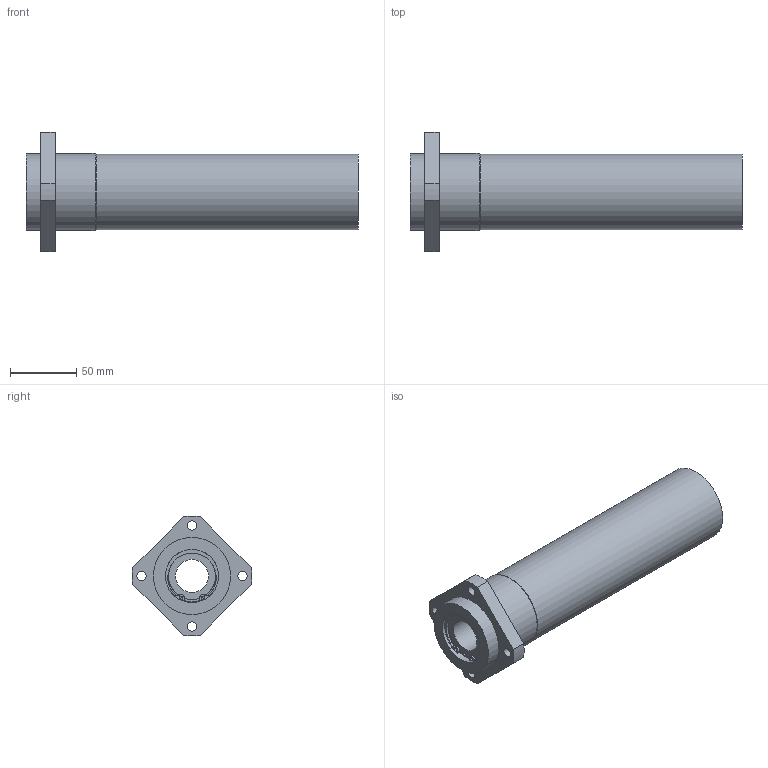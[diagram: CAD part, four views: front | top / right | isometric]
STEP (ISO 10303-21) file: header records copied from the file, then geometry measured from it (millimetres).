
FILE_DESCRIPTION((''),'2;1');
FILE_NAME('C:\Documents and Settings\土屋\My Documents\土屋移動用フォルダ\製品 (図面)\カタログ用3D\変換ファイル\OZAK_3D-CAD(STEP形式)\Part1.-Linear Bearings_ﾘﾆｱﾍﾞｱﾘﾝｸﾞ\09_Maintenance Free_ﾒｲﾝﾃﾅﾝｽﾌﾘｰ\L2017-09-22T14:03:31','2017-09-22T14:03:31',('y'),(''),'Autodesk Inventor 11','Autodesk Inventor 11','');
FILE_SCHEMA(('AUTOMOTIVE_DESIGN { 1 0 10303 214 1 1 1 1 }'));
Length unit declared in the file: millimetre
Products named in the file (1): LFWLB25BMF
Bounding box: 250 x 89.9 x 89.9 mm (x, y, z)
Volume: 537672 mm3; surface area: 82231.7 mm2
Topology: 1 solids, 7 shells, 97 faces, 245 edges, 152 vertices
Faces by surface type: bspline 34, cylinder 32, plane 28, torus 2, cone 1
Full cylindrical faces by diameter (mm): 2.5 x2, 7 x4, 25 x2, 35.3 x2, 38 x2, 40 x8, 57 x1, 58 x2
Entity records: 2957 total; most frequent: CARTESIAN_POINT 778, DIRECTION 468, ORIENTED_EDGE 384, AXIS2_PLACEMENT_3D 212, EDGE_CURVE 192, EDGE_LOOP 166, CIRCLE 148, VERTEX_POINT 136
